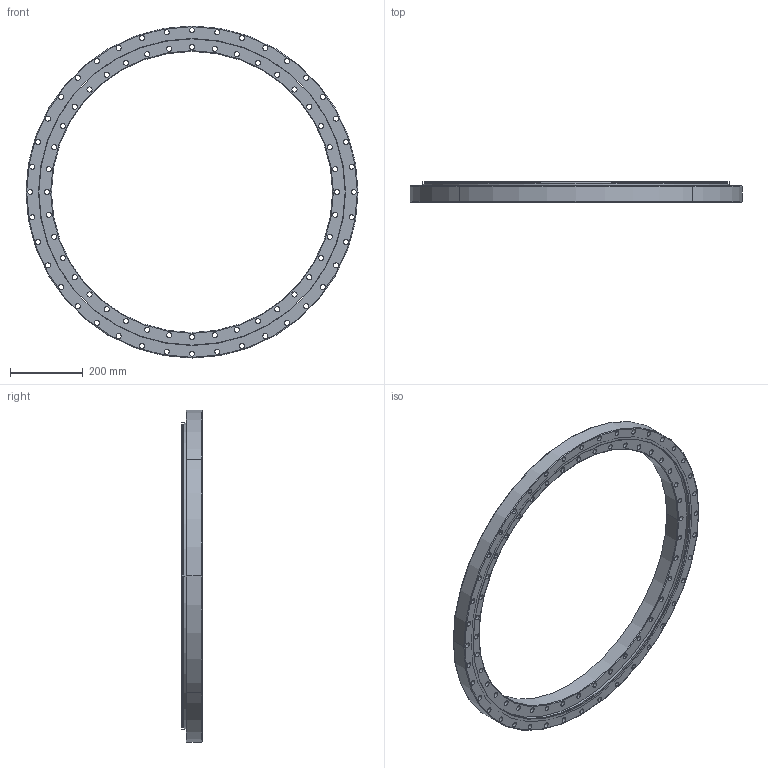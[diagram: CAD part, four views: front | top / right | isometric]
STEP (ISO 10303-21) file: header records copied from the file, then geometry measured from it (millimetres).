
FILE_DESCRIPTION((''),'2;1');
FILE_NAME('XSU140844','2018-06-01T',('Administrator'),(''),'PRO/ENGINEER BY PARAMETRIC TECHNOLOGY CORPORATION, 2010180','PRO/ENGINEER BY PARAMETRIC TECHNOLOGY CORPORATION, 2010180','');
FILE_SCHEMA(('AUTOMOTIVE_DESIGN_CC2 { 1 2 10303 214 -1 1 5 2 }'));
Length unit declared in the file: millimetre
Products named in the file (1): XSU140844
Bounding box: 914 x 56 x 914 mm (x, y, z)
Volume: 6885663 mm3; surface area: 1086748 mm2
Topology: 2 solids, 2 shells, 202 faces, 564 edges, 370 vertices
Faces by surface type: cylinder 180, plane 8, cone 8, torus 6
Entity records: 7050 total; most frequent: DIRECTION 1344, CARTESIAN_POINT 1136, ORIENTED_EDGE 1128, AXIS2_PLACEMENT_3D 578, EDGE_CURVE 564, CIRCLE 376, VERTEX_POINT 370, EDGE_LOOP 370
